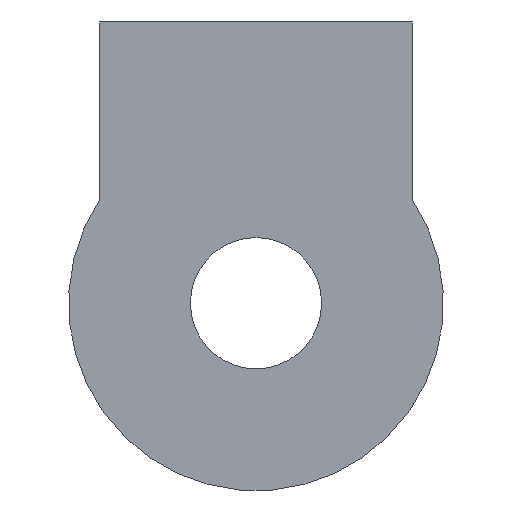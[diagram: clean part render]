
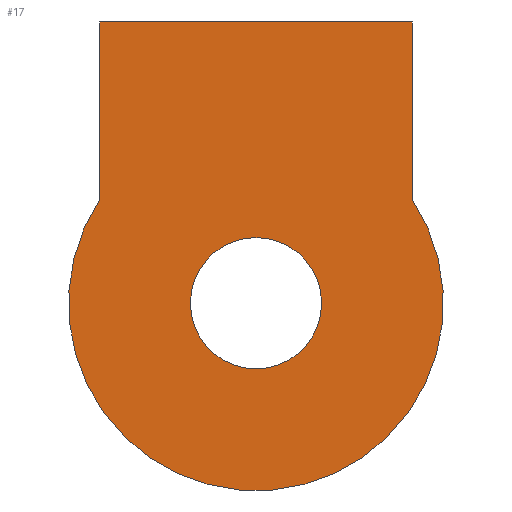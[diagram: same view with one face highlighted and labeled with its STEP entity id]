
A CAD part, left-side view. The second image highlights one B-rep face of the part: STEP entity #17.
In plain terms, the highlighted planar face has unit normal (-1, 0, 0).
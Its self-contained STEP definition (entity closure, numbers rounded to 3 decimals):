
#17 = ADVANCED_FACE('',(#18,#138),#32,.F.);
#18 = FACE_BOUND('',#19,.F.);
#19 = EDGE_LOOP('',(#20,#55,#84,#112));
#20 = ORIENTED_EDGE('',*,*,#21,.F.);
#21 = EDGE_CURVE('',#22,#24,#26,.T.);
#22 = VERTEX_POINT('',#23);
#23 = CARTESIAN_POINT('',(25.5,29.,43.317));
#24 = VERTEX_POINT('',#25);
#25 = CARTESIAN_POINT('',(25.5,29.,49.));
#26 = SURFACE_CURVE('',#27,(#31,#43),.PCURVE_S1.);
#27 = LINE('',#28,#29);
#28 = CARTESIAN_POINT('',(25.5,29.,43.317));
#29 = VECTOR('',#30,1.);
#30 = DIRECTION('',(0.,0.,1.));
#31 = PCURVE('',#32,#37);
#32 = PLANE('',#33);
#33 = AXIS2_PLACEMENT_3D('',#34,#35,#36);
#34 = CARTESIAN_POINT('',(25.5,34.,40.));
#35 = DIRECTION('',(1.,0.,0.));
#36 = DIRECTION('',(-0.,0.,1.));
#37 = DEFINITIONAL_REPRESENTATION('',(#38),#42);
#38 = LINE('',#39,#40);
#39 = CARTESIAN_POINT('',(3.317,5.));
#40 = VECTOR('',#41,1.);
#41 = DIRECTION('',(1.,0.));
#42 = ( GEOMETRIC_REPRESENTATION_CONTEXT(2) 
PARAMETRIC_REPRESENTATION_CONTEXT() REPRESENTATION_CONTEXT('2D SPACE',''
  ) );
#43 = PCURVE('',#44,#49);
#44 = PLANE('',#45);
#45 = AXIS2_PLACEMENT_3D('',#46,#47,#48);
#46 = CARTESIAN_POINT('',(25.5,29.,43.));
#47 = DIRECTION('',(0.,1.,0.));
#48 = DIRECTION('',(0.,0.,1.));
#49 = DEFINITIONAL_REPRESENTATION('',(#50),#54);
#50 = LINE('',#51,#52);
#51 = CARTESIAN_POINT('',(0.317,0.));
#52 = VECTOR('',#53,1.);
#53 = DIRECTION('',(1.,0.));
#54 = ( GEOMETRIC_REPRESENTATION_CONTEXT(2) 
PARAMETRIC_REPRESENTATION_CONTEXT() REPRESENTATION_CONTEXT('2D SPACE',''
  ) );
#55 = ORIENTED_EDGE('',*,*,#56,.T.);
#56 = EDGE_CURVE('',#22,#57,#59,.T.);
#57 = VERTEX_POINT('',#58);
#58 = CARTESIAN_POINT('',(25.5,39.,43.317));
#59 = SURFACE_CURVE('',#60,(#65,#72),.PCURVE_S1.);
#60 = CIRCLE('',#61,6.);
#61 = AXIS2_PLACEMENT_3D('',#62,#63,#64);
#62 = CARTESIAN_POINT('',(25.5,34.,40.));
#63 = DIRECTION('',(1.,0.,0.));
#64 = DIRECTION('',(-0.,0.,1.));
#65 = PCURVE('',#32,#66);
#66 = DEFINITIONAL_REPRESENTATION('',(#67),#71);
#67 = CIRCLE('',#68,6.);
#68 = AXIS2_PLACEMENT_2D('',#69,#70);
#69 = CARTESIAN_POINT('',(0.,0.));
#70 = DIRECTION('',(1.,0.));
#71 = ( GEOMETRIC_REPRESENTATION_CONTEXT(2) 
PARAMETRIC_REPRESENTATION_CONTEXT() REPRESENTATION_CONTEXT('2D SPACE',''
  ) );
#72 = PCURVE('',#73,#78);
#73 = CYLINDRICAL_SURFACE('',#74,6.);
#74 = AXIS2_PLACEMENT_3D('',#75,#76,#77);
#75 = CARTESIAN_POINT('',(25.5,34.,40.));
#76 = DIRECTION('',(1.,0.,0.));
#77 = DIRECTION('',(-0.,0.,1.));
#78 = DEFINITIONAL_REPRESENTATION('',(#79),#83);
#79 = LINE('',#80,#81);
#80 = CARTESIAN_POINT('',(0.,0.));
#81 = VECTOR('',#82,1.);
#82 = DIRECTION('',(1.,0.));
#83 = ( GEOMETRIC_REPRESENTATION_CONTEXT(2) 
PARAMETRIC_REPRESENTATION_CONTEXT() REPRESENTATION_CONTEXT('2D SPACE',''
  ) );
#84 = ORIENTED_EDGE('',*,*,#85,.F.);
#85 = EDGE_CURVE('',#86,#57,#88,.T.);
#86 = VERTEX_POINT('',#87);
#87 = CARTESIAN_POINT('',(25.5,39.,49.));
#88 = SURFACE_CURVE('',#89,(#93,#100),.PCURVE_S1.);
#89 = LINE('',#90,#91);
#90 = CARTESIAN_POINT('',(25.5,39.,49.));
#91 = VECTOR('',#92,1.);
#92 = DIRECTION('',(0.,0.,-1.));
#93 = PCURVE('',#32,#94);
#94 = DEFINITIONAL_REPRESENTATION('',(#95),#99);
#95 = LINE('',#96,#97);
#96 = CARTESIAN_POINT('',(9.,-5.));
#97 = VECTOR('',#98,1.);
#98 = DIRECTION('',(-1.,0.));
#99 = ( GEOMETRIC_REPRESENTATION_CONTEXT(2) 
PARAMETRIC_REPRESENTATION_CONTEXT() REPRESENTATION_CONTEXT('2D SPACE',''
  ) );
#100 = PCURVE('',#101,#106);
#101 = PLANE('',#102);
#102 = AXIS2_PLACEMENT_3D('',#103,#104,#105);
#103 = CARTESIAN_POINT('',(25.5,39.,43.));
#104 = DIRECTION('',(0.,1.,0.));
#105 = DIRECTION('',(0.,0.,1.));
#106 = DEFINITIONAL_REPRESENTATION('',(#107),#111);
#107 = LINE('',#108,#109);
#108 = CARTESIAN_POINT('',(6.,0.));
#109 = VECTOR('',#110,1.);
#110 = DIRECTION('',(-1.,0.));
#111 = ( GEOMETRIC_REPRESENTATION_CONTEXT(2) 
PARAMETRIC_REPRESENTATION_CONTEXT() REPRESENTATION_CONTEXT('2D SPACE',''
  ) );
#112 = ORIENTED_EDGE('',*,*,#113,.F.);
#113 = EDGE_CURVE('',#24,#86,#114,.T.);
#114 = SURFACE_CURVE('',#115,(#119,#126),.PCURVE_S1.);
#115 = LINE('',#116,#117);
#116 = CARTESIAN_POINT('',(25.5,29.,49.));
#117 = VECTOR('',#118,1.);
#118 = DIRECTION('',(0.,1.,0.));
#119 = PCURVE('',#32,#120);
#120 = DEFINITIONAL_REPRESENTATION('',(#121),#125);
#121 = LINE('',#122,#123);
#122 = CARTESIAN_POINT('',(9.,5.));
#123 = VECTOR('',#124,1.);
#124 = DIRECTION('',(0.,-1.));
#125 = ( GEOMETRIC_REPRESENTATION_CONTEXT(2) 
PARAMETRIC_REPRESENTATION_CONTEXT() REPRESENTATION_CONTEXT('2D SPACE',''
  ) );
#126 = PCURVE('',#127,#132);
#127 = PLANE('',#128);
#128 = AXIS2_PLACEMENT_3D('',#129,#130,#131);
#129 = CARTESIAN_POINT('',(25.5,29.,49.));
#130 = DIRECTION('',(0.,0.,1.));
#131 = DIRECTION('',(1.,0.,0.));
#132 = DEFINITIONAL_REPRESENTATION('',(#133),#137);
#133 = LINE('',#134,#135);
#134 = CARTESIAN_POINT('',(0.,0.));
#135 = VECTOR('',#136,1.);
#136 = DIRECTION('',(0.,1.));
#137 = ( GEOMETRIC_REPRESENTATION_CONTEXT(2) 
PARAMETRIC_REPRESENTATION_CONTEXT() REPRESENTATION_CONTEXT('2D SPACE',''
  ) );
#138 = FACE_BOUND('',#139,.F.);
#139 = EDGE_LOOP('',(#140));
#140 = ORIENTED_EDGE('',*,*,#141,.F.);
#141 = EDGE_CURVE('',#142,#142,#144,.T.);
#142 = VERTEX_POINT('',#143);
#143 = CARTESIAN_POINT('',(25.5,34.,42.1));
#144 = SURFACE_CURVE('',#145,(#150,#157),.PCURVE_S1.);
#145 = CIRCLE('',#146,2.1);
#146 = AXIS2_PLACEMENT_3D('',#147,#148,#149);
#147 = CARTESIAN_POINT('',(25.5,34.,40.));
#148 = DIRECTION('',(1.,0.,0.));
#149 = DIRECTION('',(-0.,0.,1.));
#150 = PCURVE('',#32,#151);
#151 = DEFINITIONAL_REPRESENTATION('',(#152),#156);
#152 = CIRCLE('',#153,2.1);
#153 = AXIS2_PLACEMENT_2D('',#154,#155);
#154 = CARTESIAN_POINT('',(0.,0.));
#155 = DIRECTION('',(1.,0.));
#156 = ( GEOMETRIC_REPRESENTATION_CONTEXT(2) 
PARAMETRIC_REPRESENTATION_CONTEXT() REPRESENTATION_CONTEXT('2D SPACE',''
  ) );
#157 = PCURVE('',#158,#163);
#158 = CYLINDRICAL_SURFACE('',#159,2.1);
#159 = AXIS2_PLACEMENT_3D('',#160,#161,#162);
#160 = CARTESIAN_POINT('',(24.5,34.,40.));
#161 = DIRECTION('',(1.,0.,0.));
#162 = DIRECTION('',(-0.,0.,1.));
#163 = DEFINITIONAL_REPRESENTATION('',(#164),#168);
#164 = LINE('',#165,#166);
#165 = CARTESIAN_POINT('',(0.,1.));
#166 = VECTOR('',#167,1.);
#167 = DIRECTION('',(1.,0.));
#168 = ( GEOMETRIC_REPRESENTATION_CONTEXT(2) 
PARAMETRIC_REPRESENTATION_CONTEXT() REPRESENTATION_CONTEXT('2D SPACE',''
  ) );
